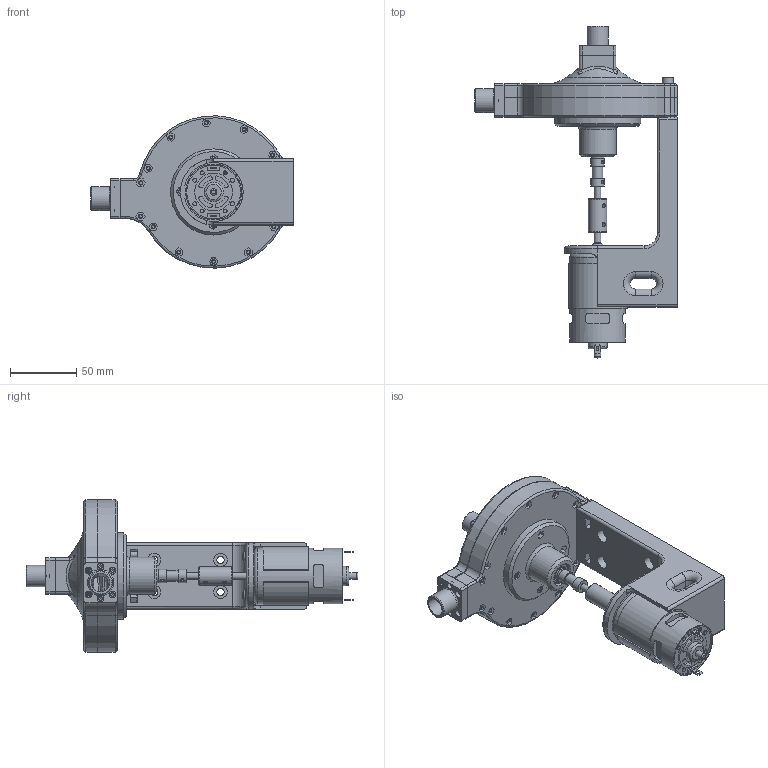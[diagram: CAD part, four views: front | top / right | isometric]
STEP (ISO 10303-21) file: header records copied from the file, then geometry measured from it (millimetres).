
FILE_DESCRIPTION(/* description */ (''),/* implementation_level */ '2;1');
FILE_NAME(/* name */ 'Assieme_pompa_small_v3.stp',/* time_stamp */ '2025-05-02T18:45:52+02:00',/* author */ ('R5800u'),/* organization */ (''),/* preprocessor_version */ 'ST-DEVELOPER v20',/* originating_system */ 'Autodesk Inventor 2025',/* authorisation */ '');
FILE_SCHEMA (('AUTOMOTIVE_DESIGN { 1 0 10303 214 3 1 1 }'));
Length unit declared in the file: millimetre
Products named in the file (23): Assieme_pompa_small_v2; pompa centrifuga; albero_12mm; supporto_albero; cassa_bassa; cassa_alta; AS 1420 - 1973 - M3 x 20; out; in; AS 1112 - M3  Tipo 5; AS 1420 - 1973 - M3 x 10; 775; anello_5mm; Unbrako - M2,5 x 25; %3% BS 290 - SKF 625; rondella_5mm; sostegno_775_02; BS 4168 - M5 x 45; AS 1427 - M4 x 6; AS 1112 - M5  Tipo 5; connettore_rigido_5x5; giunto_rigido_ottone_5mm; AS 1421 - M3 x 4 Punta a coppa
Assembly tree (46 placements, depth 2):
  Assieme_pompa_small_v2
    pompa centrifuga
    %3% BS 290 - SKF 625  x3
    albero_12mm
    supporto_albero
    cassa_bassa
    cassa_alta
    AS 1420 - 1973 - M3 x 20  x13
    AS 1112 - M3  Tipo 5  x3
    out
    in
    AS 1420 - 1973 - M3 x 10
    Unbrako - M2,5 x 25  x3
    rondella_5mm  x2
    775
    anello_5mm
    sostegno_775_02
    BS 4168 - M5 x 45  x2
    AS 1427 - M4 x 6  x2
    AS 1112 - M5  Tipo 5
    connettore_rigido_5x5
    giunto_rigido_ottone_5mm
    AS 1421 - M3 x 4 Punta a coppa  x4
Bounding box: 152.62 x 250.5 x 114.94 mm (x, y, z)
Volume: 529697.2 mm3; surface area: 173966.3 mm2
Topology: 59 solids, 59 shells, 1482 faces, 3703 edges, 2390 vertices
Faces by surface type: plane 684, cylinder 399, cone 160, torus 125, bspline 97, sphere 17
Full cylindrical faces by diameter (mm): 2 x1, 2.459 x7, 2.5 x3, 2.65 x24, 3 x30, 3.2 x34, 3.242 x2, 3.571 x2, 4 x2, 4.134 x1, 4.5 x5, 5 x17, 5.1 x1, 5.2 x12, 5.23 x4, 5.5 x35, 8 x1, 8.5 x2, 8.52 x6, 9 x1, 10 x9, 11.2 x1, 12 x1, 12.48 x6, 14 x2, 14.5 x1, 15.101 x1, 16 x6, 16.2 x1, 17 x1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
Entity records: 39975 total; most frequent: CARTESIAN_POINT 13378, ORIENTED_EDGE 5234, DIRECTION 5225, EDGE_CURVE 2617, AXIS2_PLACEMENT_3D 2000, VERTEX_POINT 1712, EDGE_LOOP 1341, LINE 1225
